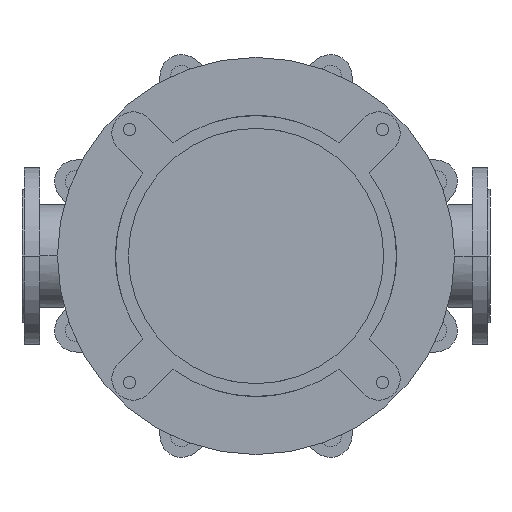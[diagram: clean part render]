
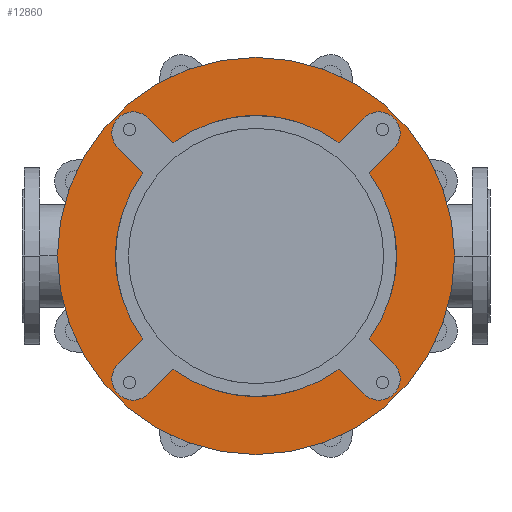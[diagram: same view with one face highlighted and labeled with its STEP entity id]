
A CAD part, front view. The second image highlights one B-rep face of the part: STEP entity #12860.
In plain terms, the highlighted planar face has unit normal (0, -1, 0).
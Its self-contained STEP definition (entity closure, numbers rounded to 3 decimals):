
#2522=CARTESIAN_POINT('',(0.,-25.,0.));
#2523=DIRECTION('',(0.,1.,0.));
#2524=DIRECTION('',(0.592,0.,-0.806));
#2525=AXIS2_PLACEMENT_3D('',#2522,#2523,#2524);
#2540=CARTESIAN_POINT('',(0.,-25.,0.));
#2541=DIRECTION('',(0.,1.,0.));
#2542=DIRECTION('',(0.806,0.,0.592));
#2543=AXIS2_PLACEMENT_3D('',#2540,#2541,#2542);
#2567=CARTESIAN_POINT('',(0.,-25.,0.));
#2568=DIRECTION('',(0.,1.,0.));
#2569=DIRECTION('',(-0.806,0.,-0.592));
#2570=AXIS2_PLACEMENT_3D('',#2567,#2568,#2569);
#2576=CARTESIAN_POINT('',(0.,-25.,0.));
#2577=DIRECTION('',(0.,1.,0.));
#2578=DIRECTION('',(-0.592,0.,0.806));
#2579=AXIS2_PLACEMENT_3D('',#2576,#2577,#2578);
#2754=CARTESIAN_POINT('',(0.,-25.,0.));
#2755=DIRECTION('',(0.,-1.,0.));
#2756=DIRECTION('',(-1.,0.,0.));
#2757=AXIS2_PLACEMENT_3D('',#2754,#2755,#2756);
#2759=CARTESIAN_POINT('',(0.,-25.,0.));
#2760=DIRECTION('',(0.,1.,0.));
#2761=DIRECTION('',(-1.,0.,0.));
#2762=AXIS2_PLACEMENT_3D('',#2759,#2760,#2761);
#2764=CARTESIAN_POINT('',(-173.241,-25.,173.241));
#2765=DIRECTION('',(0.,-1.,0.));
#2766=DIRECTION('',(0.707,0.,0.707));
#2767=AXIS2_PLACEMENT_3D('',#2764,#2765,#2766);
#2769=DIRECTION('',(0.707,0.,-0.707));
#2770=VECTOR('',#2769,49.286);
#2771=CARTESIAN_POINT('',(-194.454,-25.,152.028));
#2772=LINE('',#2771,#2770);
#2773=DIRECTION('',(-0.707,0.,-0.707));
#2774=VECTOR('',#2773,49.286);
#2775=CARTESIAN_POINT('',(-159.604,-25.,-117.178));
#2776=LINE('',#2775,#2774);
#2777=CARTESIAN_POINT('',(-173.241,-25.,-173.241));
#2778=DIRECTION('',(0.,-1.,0.));
#2779=DIRECTION('',(-0.707,0.,0.707));
#2780=AXIS2_PLACEMENT_3D('',#2777,#2778,#2779);
#2782=DIRECTION('',(0.707,0.,0.707));
#2783=VECTOR('',#2782,49.286);
#2784=CARTESIAN_POINT('',(-152.028,-25.,-194.454));
#2785=LINE('',#2784,#2783);
#2786=DIRECTION('',(0.707,0.,-0.707));
#2787=VECTOR('',#2786,49.286);
#2788=CARTESIAN_POINT('',(117.178,-25.,-159.604));
#2789=LINE('',#2788,#2787);
#2790=CARTESIAN_POINT('',(173.241,-25.,-173.241));
#2791=DIRECTION('',(0.,-1.,0.));
#2792=DIRECTION('',(-0.707,0.,-0.707));
#2793=AXIS2_PLACEMENT_3D('',#2790,#2791,#2792);
#2795=DIRECTION('',(-0.707,0.,0.707));
#2796=VECTOR('',#2795,49.286);
#2797=CARTESIAN_POINT('',(194.454,-25.,-152.028));
#2798=LINE('',#2797,#2796);
#2799=DIRECTION('',(0.707,0.,0.707));
#2800=VECTOR('',#2799,49.286);
#2801=CARTESIAN_POINT('',(159.604,-25.,117.178));
#2802=LINE('',#2801,#2800);
#2803=CARTESIAN_POINT('',(173.241,-25.,173.241));
#2804=DIRECTION('',(0.,-1.,0.));
#2805=DIRECTION('',(0.707,0.,-0.707));
#2806=AXIS2_PLACEMENT_3D('',#2803,#2804,#2805);
#2808=DIRECTION('',(-0.707,0.,-0.707));
#2809=VECTOR('',#2808,49.286);
#2810=CARTESIAN_POINT('',(152.028,-25.,194.454));
#2811=LINE('',#2810,#2809);
#2812=DIRECTION('',(-0.707,0.,0.707));
#2813=VECTOR('',#2812,49.286);
#2814=CARTESIAN_POINT('',(-117.178,-25.,159.604));
#2815=LINE('',#2814,#2813);
#8373=CARTESIAN_POINT('',(-280.,-25.,0.));
#8374=CARTESIAN_POINT('',(280.,-25.,0.));
#8375=VERTEX_POINT('',#8373);
#8376=VERTEX_POINT('',#8374);
#8397=CARTESIAN_POINT('',(-194.454,-25.,-152.028));
#8398=CARTESIAN_POINT('',(-152.028,-25.,-194.454));
#8399=VERTEX_POINT('',#8397);
#8400=VERTEX_POINT('',#8398);
#8401=CARTESIAN_POINT('',(-117.178,-25.,-159.604));
#8402=VERTEX_POINT('',#8401);
#8403=CARTESIAN_POINT('',(-159.604,-25.,-117.178));
#8404=VERTEX_POINT('',#8403);
#8413=CARTESIAN_POINT('',(152.028,-25.,-194.454));
#8414=CARTESIAN_POINT('',(194.454,-25.,-152.028));
#8415=VERTEX_POINT('',#8413);
#8416=VERTEX_POINT('',#8414);
#8417=CARTESIAN_POINT('',(159.604,-25.,-117.178));
#8418=VERTEX_POINT('',#8417);
#8419=CARTESIAN_POINT('',(117.178,-25.,-159.604));
#8420=VERTEX_POINT('',#8419);
#8429=CARTESIAN_POINT('',(194.454,-25.,152.028));
#8430=CARTESIAN_POINT('',(152.028,-25.,194.454));
#8431=VERTEX_POINT('',#8429);
#8432=VERTEX_POINT('',#8430);
#8433=CARTESIAN_POINT('',(117.178,-25.,159.604));
#8434=VERTEX_POINT('',#8433);
#8435=CARTESIAN_POINT('',(159.604,-25.,117.178));
#8436=VERTEX_POINT('',#8435);
#8445=CARTESIAN_POINT('',(-152.028,-25.,194.454));
#8446=CARTESIAN_POINT('',(-194.454,-25.,152.028));
#8447=VERTEX_POINT('',#8445);
#8448=VERTEX_POINT('',#8446);
#8449=CARTESIAN_POINT('',(-159.604,-25.,117.178));
#8450=VERTEX_POINT('',#8449);
#8451=CARTESIAN_POINT('',(-117.178,-25.,159.604));
#8452=VERTEX_POINT('',#8451);
#12820=CARTESIAN_POINT('',(0.,-25.,0.));
#12821=DIRECTION('',(0.,-1.,0.));
#12822=DIRECTION('',(-1.,0.,0.));
#12823=AXIS2_PLACEMENT_3D('',#12820,#12821,#12822);
#12824=PLANE('',#12823);
#12826=ORIENTED_EDGE('',*,*,#12825,.F.);
#12828=ORIENTED_EDGE('',*,*,#12827,.T.);
#12829=EDGE_LOOP('',(#12826,#12828));
#12830=FACE_OUTER_BOUND('',#12829,.F.);
#12832=ORIENTED_EDGE('',*,*,#12831,.T.);
#12834=ORIENTED_EDGE('',*,*,#12833,.T.);
#12835=ORIENTED_EDGE('',*,*,#12773,.F.);
#12837=ORIENTED_EDGE('',*,*,#12836,.T.);
#12839=ORIENTED_EDGE('',*,*,#12838,.T.);
#12841=ORIENTED_EDGE('',*,*,#12840,.T.);
#12842=ORIENTED_EDGE('',*,*,#12726,.F.);
#12843=ORIENTED_EDGE('',*,*,#12810,.T.);
#12845=ORIENTED_EDGE('',*,*,#12844,.T.);
#12847=ORIENTED_EDGE('',*,*,#12846,.T.);
#12848=ORIENTED_EDGE('',*,*,#12747,.F.);
#12850=ORIENTED_EDGE('',*,*,#12849,.T.);
#12852=ORIENTED_EDGE('',*,*,#12851,.T.);
#12854=ORIENTED_EDGE('',*,*,#12853,.T.);
#12855=ORIENTED_EDGE('',*,*,#12791,.F.);
#12857=ORIENTED_EDGE('',*,*,#12856,.T.);
#12858=EDGE_LOOP('',(#12832,#12834,#12835,#12837,#12839,#12841,#12842,#12843,
#12845,#12847,#12848,#12850,#12852,#12854,#12855,#12857));
#12859=FACE_BOUND('',#12858,.F.);
#12860=ADVANCED_FACE('',(#12830,#12859),#12824,.T.);
#2526=CIRCLE('',#2525,198.);
#2544=CIRCLE('',#2543,198.);
#2571=CIRCLE('',#2570,198.);
#2580=CIRCLE('',#2579,198.);
#2758=CIRCLE('',#2757,280.);
#2763=CIRCLE('',#2762,280.);
#2768=CIRCLE('',#2767,30.);
#2781=CIRCLE('',#2780,30.);
#2794=CIRCLE('',#2793,30.);
#2807=CIRCLE('',#2806,30.);
#12726=EDGE_CURVE('',#8420,#8402,#2526,.T.);
#12747=EDGE_CURVE('',#8436,#8418,#2544,.T.);
#12773=EDGE_CURVE('',#8404,#8450,#2571,.T.);
#12791=EDGE_CURVE('',#8452,#8434,#2580,.T.);
#12810=EDGE_CURVE('',#8420,#8415,#2789,.T.);
#12825=EDGE_CURVE('',#8375,#8376,#2758,.T.);
#12827=EDGE_CURVE('',#8375,#8376,#2763,.T.);
#12831=EDGE_CURVE('',#8447,#8448,#2768,.T.);
#12833=EDGE_CURVE('',#8448,#8450,#2772,.T.);
#12836=EDGE_CURVE('',#8404,#8399,#2776,.T.);
#12838=EDGE_CURVE('',#8399,#8400,#2781,.T.);
#12840=EDGE_CURVE('',#8400,#8402,#2785,.T.);
#12844=EDGE_CURVE('',#8415,#8416,#2794,.T.);
#12846=EDGE_CURVE('',#8416,#8418,#2798,.T.);
#12849=EDGE_CURVE('',#8436,#8431,#2802,.T.);
#12851=EDGE_CURVE('',#8431,#8432,#2807,.T.);
#12853=EDGE_CURVE('',#8432,#8434,#2811,.T.);
#12856=EDGE_CURVE('',#8452,#8447,#2815,.T.);
